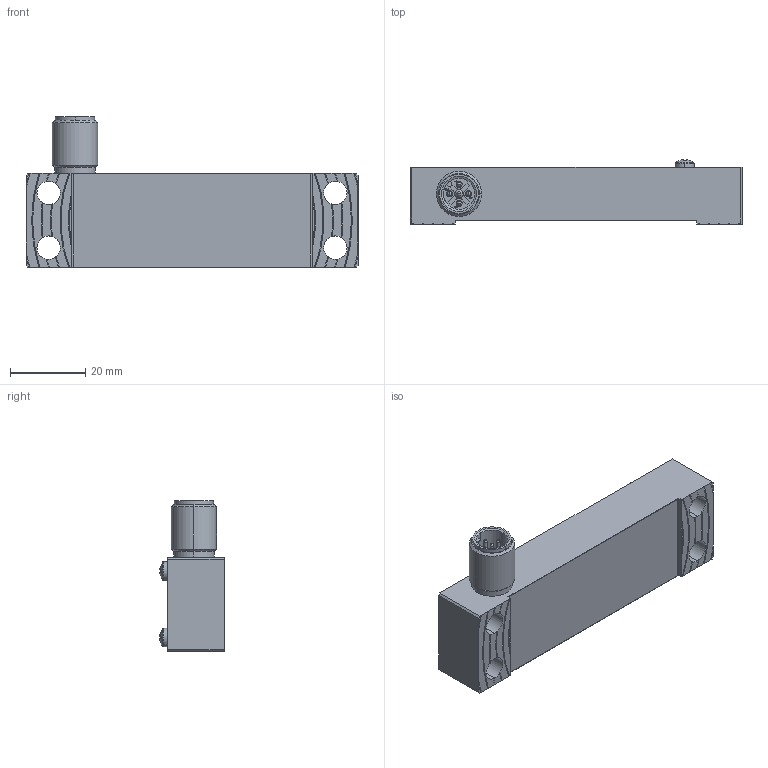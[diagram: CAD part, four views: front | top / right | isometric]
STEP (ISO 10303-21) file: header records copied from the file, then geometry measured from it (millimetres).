
FILE_DESCRIPTION (( 'STEP AP203' ), '1' );
FILE_NAME ('ZM-00904_00.STEP', '2024-02-09T07:48:37', ( '' ), ( '' ), 'SwSTEP 2.0', 'SolidWorks 2024', '' );
FILE_SCHEMA (( 'CONFIG_CONTROL_DESIGN' ));
Length unit declared in the file: millimetre
Products named in the file (6): ZM-00732_00_Dummy; ZM-00904_00; ZN-40198_00; ZN-40148_00; ZV-30032_00; ZM-00712_00
Assembly tree (6 placements, depth 2):
  ZM-00904_00
    ZM-00732_00_Dummy
    ZN-40148_00
    ZM-00712_00
    ZN-40198_00
    ZV-30032_00  x2
Bounding box: 88 x 17.05 x 40 mm (x, y, z)
Volume: 30361.3 mm3; surface area: 17872.3 mm2
Topology: 6 solids, 6 shells, 462 faces, 1242 edges, 788 vertices
Faces by surface type: plane 183, cylinder 150, cone 71, bspline 34, sphere 14, torus 10
Entity records: 15362 total; most frequent: CARTESIAN_POINT 4376, ORIENTED_EDGE 2192, DIRECTION 2154, EDGE_CURVE 1096, AXIS2_PLACEMENT_3D 815, VERTEX_POINT 716, LINE 524, VECTOR 524
